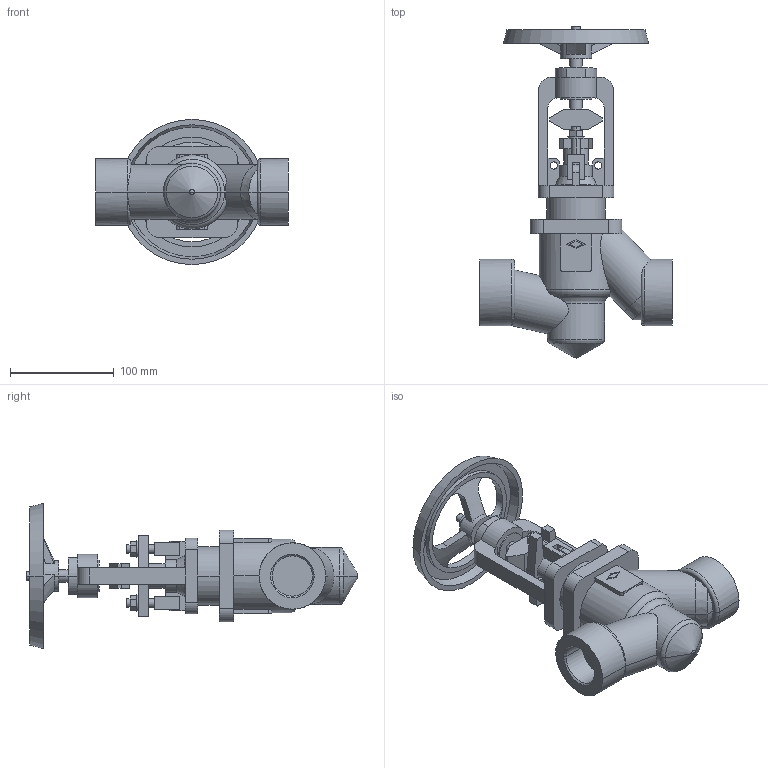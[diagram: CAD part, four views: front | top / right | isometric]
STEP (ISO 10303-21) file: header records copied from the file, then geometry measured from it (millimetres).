
FILE_DESCRIPTION(('OneSpaceDesigner STEP Export'),'2;1');
FILE_NAME('c000004262.stp','2010-05-04T11:08:43',(''),(''),'OneSpace Designer STEP processor for AP214 (Solid Model)','OneSpace Modeling 15.50B 03-Nov-2007 (C) CoCreate Software GmbH','');
FILE_SCHEMA(('AUTOMOTIVE_DESIGN { 1 0 10303 214 1 1 1 1 }'));
Length unit declared in the file: millimetre
Products named in the file (1): 1
Bounding box: 186 x 320.03 x 140 mm (x, y, z)
Volume: 1136350 mm3; surface area: 160134.9 mm2
Topology: 1 solids, 1 shells, 286 faces, 746 edges, 484 vertices
Faces by surface type: plane 149, cylinder 93, cone 28, torus 14, sphere 2
Entity records: 11120 total; most frequent: CARTESIAN_POINT 2143, ORIENTED_EDGE 1492, DIRECTION 1258, EDGE_CURVE 746, VERTEX_POINT 484, VECTOR 436, LINE 436, AXIS2_PLACEMENT_3D 411
